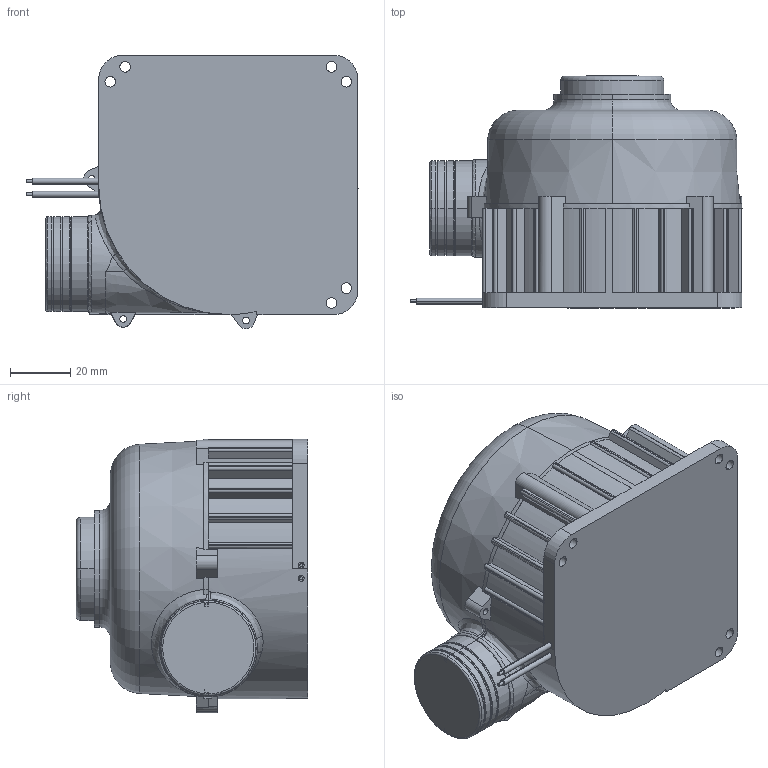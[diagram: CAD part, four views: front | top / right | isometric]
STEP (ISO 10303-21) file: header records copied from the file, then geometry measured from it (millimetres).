
FILE_DESCRIPTION((''),'2;1');
FILE_NAME('B-1','2026-07-28T17:15:13',('pc'),(''),'CREO PARAMETRIC BY PTC INC, 2018050','CREO PARAMETRIC BY PTC INC, 2018050','');
FILE_SCHEMA(('CONFIG_CONTROL_DESIGN','GEOMETRIC_VALIDATION_PROPERTIES_MIM'));
Length unit declared in the file: millimetre
Products named in the file (1): B-1
Bounding box: 110.12 x 76.86 x 90.74 mm (x, y, z)
Volume: 405331.1 mm3; surface area: 41614.3 mm2
Topology: 3 solids, 3 shells, 380 faces, 1004 edges, 650 vertices
Faces by surface type: plane 201, cylinder 138, torus 24, bspline 7, cone 7, revolution 2, extrusion 1
Entity records: 13146 total; most frequent: CARTESIAN_POINT 3279, DIRECTION 2094, ORIENTED_EDGE 2008, EDGE_CURVE 1004, AXIS2_PLACEMENT_3D 781, VERTEX_POINT 650, VECTOR 530, LINE 529
